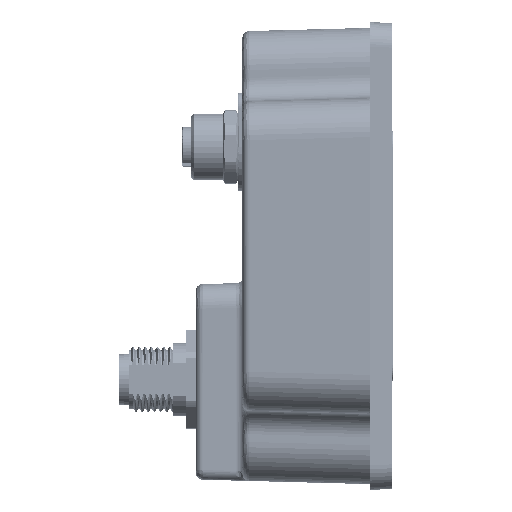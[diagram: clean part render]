
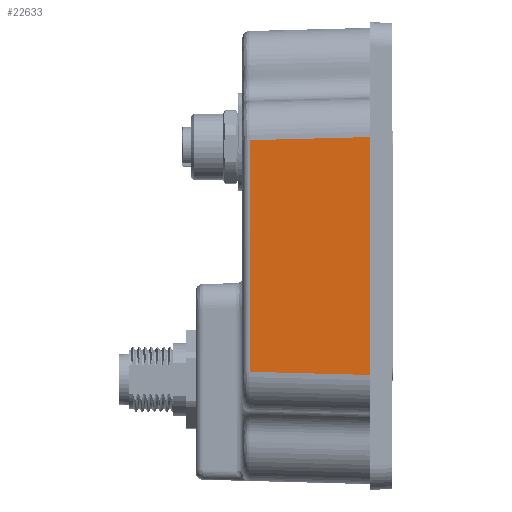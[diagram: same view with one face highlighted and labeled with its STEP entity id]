
A CAD part, left-side view. The second image highlights one B-rep face of the part: STEP entity #22633.
In plain terms, the highlighted planar face has unit normal (-1, 0.026, 0).
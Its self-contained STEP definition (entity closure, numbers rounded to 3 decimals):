
#12575 = EDGE_LOOP ( 'NONE', ( #234570, #242877, #65589, #107788 ) ) ;
#22633 = ADVANCED_FACE ( 'NONE', ( #101679 ), #184208, .T. ) ;
#23181 = DIRECTION ( 'NONE',  ( -0.026, -1., 0. ) ) ;
#31169 = LINE ( 'NONE', #96038, #138682 ) ;
#40503 = LINE ( 'NONE', #228432, #75885 ) ;
#49459 = DIRECTION ( 'NONE',  ( 0., 0., -1. ) ) ;
#65589 = ORIENTED_EDGE ( 'NONE', *, *, #159503, .T. ) ;
#75885 = VECTOR ( 'NONE', #251395, 1000. ) ;
#81457 = CARTESIAN_POINT ( 'NONE',  ( -90.884, 0., 32.147 ) ) ;
#89750 = CARTESIAN_POINT ( 'NONE',  ( -90.241, 24.573, 23.569 ) ) ;
#91826 = DIRECTION ( 'NONE',  ( 0., 0., 1. ) ) ;
#96038 = CARTESIAN_POINT ( 'NONE',  ( -90.885, -0.005, 24.212 ) ) ;
#96365 = VERTEX_POINT ( 'NONE', #202812 ) ;
#96393 = AXIS2_PLACEMENT_3D ( 'NONE', #81457, #185552, #23181 ) ;
#101163 = EDGE_CURVE ( 'NONE', #144494, #96365, #40503, .T. ) ;
#101679 = FACE_OUTER_BOUND ( 'NONE', #12575, .T. ) ;
#107788 = ORIENTED_EDGE ( 'NONE', *, *, #101163, .F. ) ;
#111023 = DIRECTION ( 'NONE',  ( -0.026, -0.999, 0.026 ) ) ;
#138682 = VECTOR ( 'NONE', #111023, 1000. ) ;
#143206 = CARTESIAN_POINT ( 'NONE',  ( -90.884, 0., 24.212 ) ) ;
#144494 = VERTEX_POINT ( 'NONE', #229355 ) ;
#159503 = EDGE_CURVE ( 'NONE', #243110, #96365, #253677, .T. ) ;
#173072 = VERTEX_POINT ( 'NONE', #143206 ) ;
#184208 = PLANE ( 'NONE',  #96393 ) ;
#185552 = DIRECTION ( 'NONE',  ( -1., 0.026, 0. ) ) ;
#202812 = CARTESIAN_POINT ( 'NONE',  ( -90.241, 24.573, -23.569 ) ) ;
#202993 = VECTOR ( 'NONE', #49459, 1000. ) ;
#209437 = EDGE_CURVE ( 'NONE', #243110, #173072, #31169, .T. ) ;
#214905 = CARTESIAN_POINT ( 'NONE',  ( -90.884, 0., 0. ) ) ;
#228432 = CARTESIAN_POINT ( 'NONE',  ( -90.868, 0.633, -24.196 ) ) ;
#229355 = CARTESIAN_POINT ( 'NONE',  ( -90.884, 0., -24.212 ) ) ;
#234570 = ORIENTED_EDGE ( 'NONE', *, *, #248076, .T. ) ;
#242877 = ORIENTED_EDGE ( 'NONE', *, *, #209437, .F. ) ;
#243110 = VERTEX_POINT ( 'NONE', #89750 ) ;
#248076 = EDGE_CURVE ( 'NONE', #144494, #173072, #255476, .T. ) ;
#251395 = DIRECTION ( 'NONE',  ( 0.026, 0.999, 0.026 ) ) ;
#253677 = LINE ( 'NONE', #254997, #202993 ) ;
#254997 = CARTESIAN_POINT ( 'NONE',  ( -90.241, 24.573, 32.147 ) ) ;
#255476 = LINE ( 'NONE', #214905, #260138 ) ;
#260138 = VECTOR ( 'NONE', #91826, 1000. ) ;
